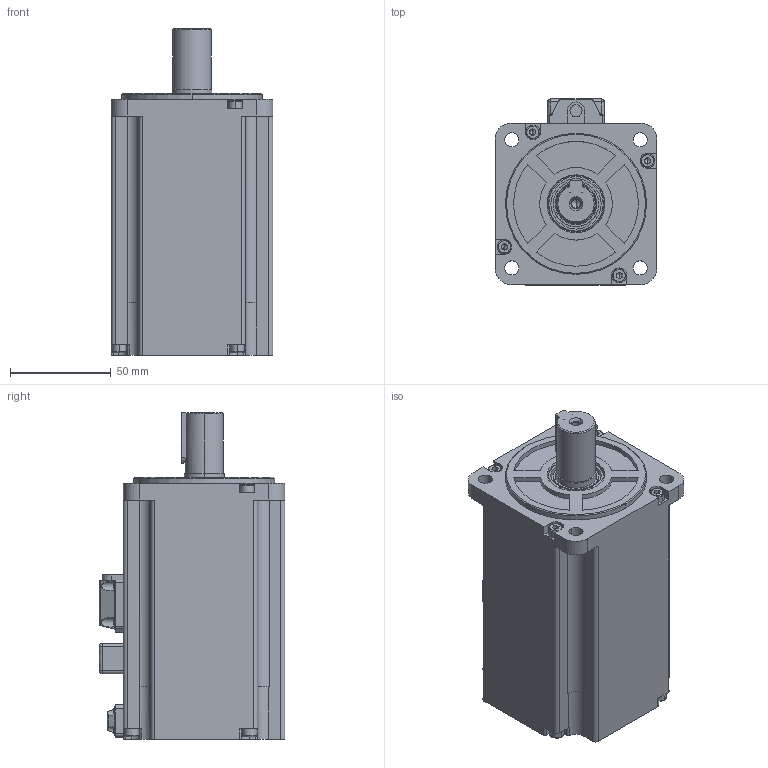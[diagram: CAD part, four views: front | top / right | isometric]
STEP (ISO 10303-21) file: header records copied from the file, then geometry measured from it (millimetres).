
FILE_DESCRIPTION((''),'2;1');
FILE_NAME('R-08E1K3A0_ASM_ASM','2021-06-21T',('lisy41'),(''),'CREO PARAMETRIC BY PTC INC, 2015480','CREO PARAMETRIC BY PTC INC, 2015480','');
FILE_SCHEMA(('CONFIG_CONTROL_DESIGN'));
Length unit declared in the file: millimetre
Products named in the file (1): R-08E1K3A0_ASM_ASM
Bounding box: 80.2 x 92.3 x 162 mm (x, y, z)
Volume: 755649.2 mm3; surface area: 68483.8 mm2
Topology: 1 solids, 101 shells, 1244 faces, 3116 edges, 1963 vertices
Faces by surface type: plane 534, cylinder 463, cone 191, torus 32, sphere 24
Entity records: 37904 total; most frequent: CARTESIAN_POINT 7698, DIRECTION 6655, ORIENTED_EDGE 5962, EDGE_CURVE 3066, AXIS2_PLACEMENT_3D 2590, VERTEX_POINT 1963, VECTOR 1475, LINE 1475
